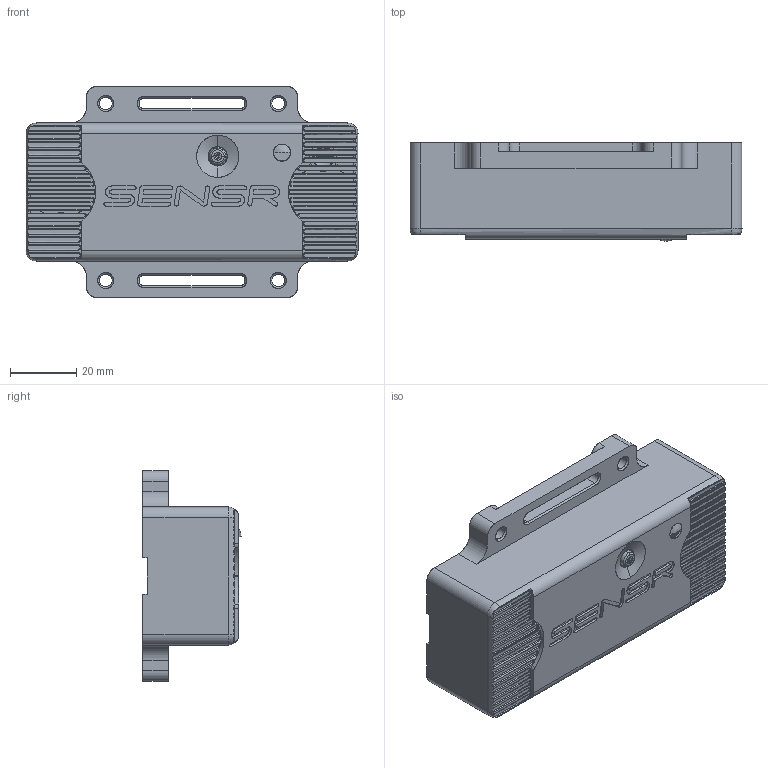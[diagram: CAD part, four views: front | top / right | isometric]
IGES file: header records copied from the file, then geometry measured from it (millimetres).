
Start section: SolidWorks IGES file using analytic representation for surfaces
Global section: file name: C:\Documents and Settings\aniewoehner\Desktop\GP1.IGS; native system: SolidWorks 2006 by SolidWorks Corporation; preprocessor: SolidWorks 2006 by SolidWorks Corporation; author: aniewoehner; date: 110311.091054; units: inch
Bounding box: 99.92 x 29.57 x 63.5 mm (x, y, z)
Surface area: 23015.6 mm2 (no closed solid volume)
Topology: 0 solids, 0 shells, 495 faces, 5722 edges, 5631 vertices
Faces by surface type: bspline 265, revolution 230
